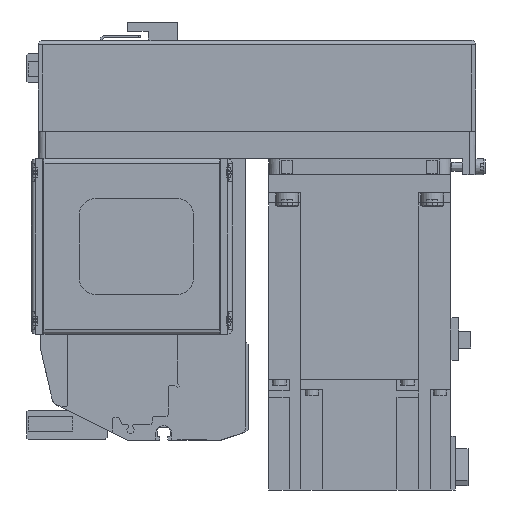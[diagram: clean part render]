
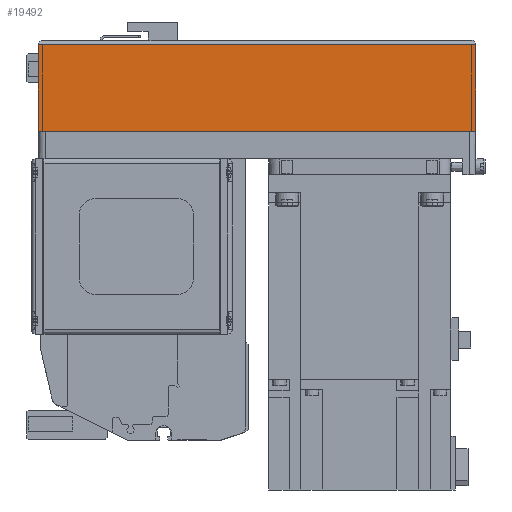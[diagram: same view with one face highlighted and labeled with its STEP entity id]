
A CAD part, left-side view. The second image highlights one B-rep face of the part: STEP entity #19492.
In plain terms, the highlighted planar face has unit normal (-1, 0, 0) as drawn and (0, -1, 0) by its records, which use the part's own axes.
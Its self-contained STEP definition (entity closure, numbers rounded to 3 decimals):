
#3018=ORIENTED_EDGE('',*,*,#7855,.F.);
#3019=ORIENTED_EDGE('',*,*,#7839,.F.);
#3020=ORIENTED_EDGE('',*,*,#7832,.T.);
#3021=ORIENTED_EDGE('',*,*,#7902,.T.);
#7832=EDGE_CURVE('',#10425,#10424,#12424,.T.);
#7839=EDGE_CURVE('',#10425,#10431,#12431,.T.);
#7855=EDGE_CURVE('',#10431,#10445,#12447,.T.);
#7902=EDGE_CURVE('',#10424,#10445,#12468,.T.);
#10424=VERTEX_POINT('',#29887);
#10425=VERTEX_POINT('',#29889);
#10431=VERTEX_POINT('',#29904);
#10445=VERTEX_POINT('',#29937);
#12424=LINE('',#29888,#14140);
#12431=LINE('',#29903,#14147);
#12447=LINE('',#29936,#14163);
#12468=LINE('',#30017,#14184);
#14140=VECTOR('',#23908,1000.);
#14147=VECTOR('',#23919,1000.);
#14163=VECTOR('',#23941,1000.);
#14184=VECTOR('',#24050,1000.);
#15718=EDGE_LOOP('',(#3018,#3019,#3020,#3021));
#17300=FACE_BOUND('',#15718,.T.);
#18713=PLANE('',#20899);
#19492=ADVANCED_FACE('',(#17300),#18713,.T.);
#20899=AXIS2_PLACEMENT_3D('',#30018,#24051,#24052);
#23908=DIRECTION('',(0.,0.,-1.));
#23919=DIRECTION('',(1.,0.,0.));
#23941=DIRECTION('',(0.,0.,-1.));
#24050=DIRECTION('',(1.,0.,0.));
#24051=DIRECTION('',(0.,-1.,0.));
#24052=DIRECTION('',(0.,0.,-1.));
#29887=CARTESIAN_POINT('',(-192.,-40.,-50.));
#29888=CARTESIAN_POINT('',(-192.,-40.,-12.1));
#29889=CARTESIAN_POINT('',(-192.,-40.,-12.1));
#29903=CARTESIAN_POINT('',(-192.,-40.,-12.1));
#29904=CARTESIAN_POINT('',(0.,-40.,-12.1));
#29936=CARTESIAN_POINT('',(0.,-40.,-12.1));
#29937=CARTESIAN_POINT('',(0.,-40.,-50.));
#30017=CARTESIAN_POINT('',(-192.,-40.,-50.));
#30018=CARTESIAN_POINT('',(-192.,-40.,-12.1));
